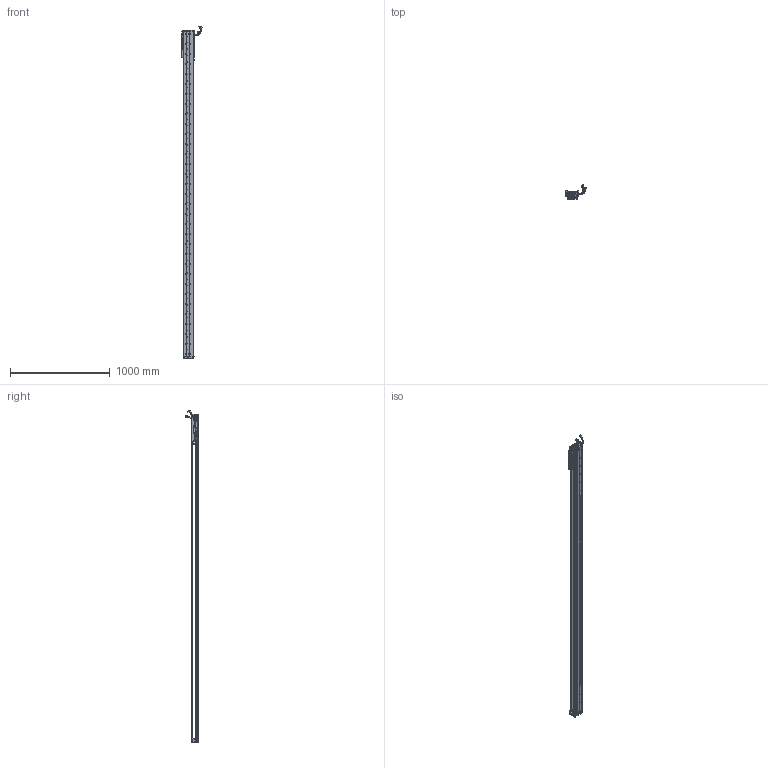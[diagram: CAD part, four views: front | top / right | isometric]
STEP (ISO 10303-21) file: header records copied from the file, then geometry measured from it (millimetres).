
FILE_DESCRIPTION (( 'STEP AP203' ), '1' );
FILE_NAME ('Z3-RY100D-1-L500-B-K.SLDASM_2950.step', '2021-05-17T02:53:15', ( '盈信电脑' ), ( '东莞市道滘镇水果街19号' ), 'SwSTEP 2.0', 'SolidWorks 2016', '' );
FILE_SCHEMA (( 'CONFIG_CONTROL_DESIGN' ));
Length unit declared in the file: millimetre
Products named in the file (36): COVER-Part-1; COVER; HARNESS-Part-2; SHIELDPLATE; 140雄赽晤鎢ん堤盄; LABEL-Part-1; 140蚥薯蝶輸; HOLDER0; SCALE-Part-2; SCREW-M1.6-3; Z3-RY100D-500-倰第菁釱_2950; LABEL; SCREW-M1.6; Z-RY100D覜茼んえ; SCREW-M1.6-2; SCREW-M1.6-1; PBU_SHEET; Z3-RY100D-1-L500-B-K.SLDASM_2950; Z3-RY100铝滑块（21款）; SCREW-M1.7-1; Z-100詩湍傷裔啣; 080黍杅芛假蚾釱21遴; SCALE-Part-1; 覜茼ん672; Z-RY100D詩湍狟揤裔; SCALE; SEAL-Part-1; 100-Z-臏賑輸盄裔(21遴); SCREW-M1.7; HARNESS-Part-1; HARNESS; SEAL; PSLH080_PSLF2; 榋妏寠巭燃_暯_M2_2; Z-RY100D詩湍奻揤裔; Z3-RY100-L500詩湍90mm遵_2950
Assembly tree (43 placements, depth 4):
  Z3-RY100D-1-L500-B-K.SLDASM_2950
    Z3-RY100D-500-倰第菁釱_2950
    Z3-RY100铝滑块（21款）
    PSLH080_PSLF2
      SCALE
        SCALE-Part-1
        SCALE-Part-2
      HARNESS
        HARNESS-Part-1
        HARNESS-Part-2
      LABEL
        LABEL-Part-1
      COVER
        COVER-Part-1
      SEAL
        SEAL-Part-1
      榋妏寠巭燃_暯_M2_2
      SHIELDPLATE
      SCREW-M1.7
      SCREW-M1.7-1
      PBU_SHEET
      SCREW-M1.6
      SCREW-M1.6-1
      SCREW-M1.6-2
      SCREW-M1.6-3
      HOLDER0
    080黍杅芛假蚾釱21遴
    Z-100詩湍傷裔啣  x2
    140蚥薯蝶輸  x2
    覜茼ん672  x3
    Z-RY100D覜茼んえ  x3
    100-Z-臏賑輸盄裔(21遴)
    140雄赽晤鎢ん堤盄
    Z3-RY100-L500詩湍90mm遵_2950
    Z-RY100D詩湍狟揤裔  x2
    Z-RY100D詩湍奻揤裔  x2
Bounding box: 205.79 x 136.11 x 3320.43 mm (x, y, z)
Volume: 5935870.9 mm3; surface area: 2350295 mm2
Topology: 38 solids, 38 shells, 3189 faces, 8815 edges, 5644 vertices
Faces by surface type: cylinder 1630, plane 1211, cone 226, torus 69, bspline 53
Entity records: 94257 total; most frequent: CARTESIAN_POINT 19697, DIRECTION 15289, ORIENTED_EDGE 14510, EDGE_CURVE 7255, AXIS2_PLACEMENT_3D 5788, VERTEX_POINT 4712, VECTOR 3713, LINE 3713
